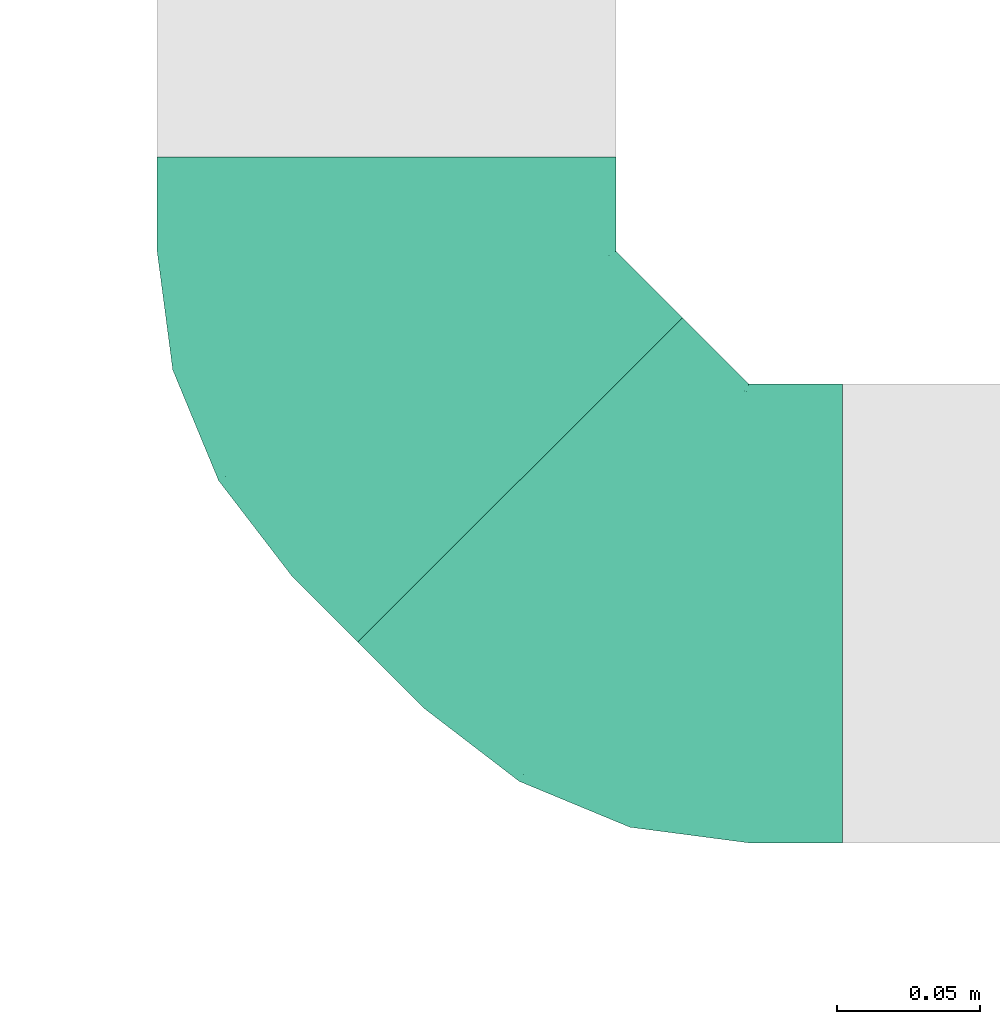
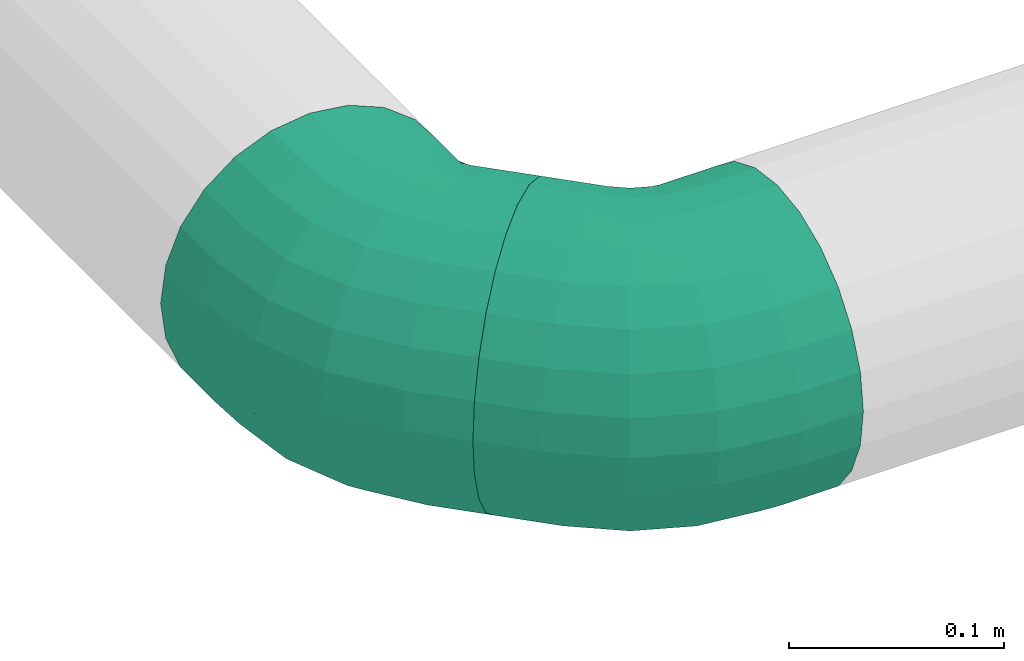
# One storey, part 154 of 374: 2 flow fittings.
"""IFC2X3 building model written with IfcOpenShell, lengths in metres."""

from ifc_helpers import new_model, si_unit, direction, origin, place, context, subcontext, project, spatial, open_shell, surface_model, source, transform, mapped, element, save


model = new_model("IFC2X3")

# Units and contexts
model_context = context("Model", 3, precision=1e-05, world=origin(), true_north=direction((-0.4480736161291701, 0.8939966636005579)))
body_context = subcontext(model_context, "Body", "Model", "MODEL_VIEW")
ifc_project = project(units=[si_unit("LENGTHUNIT", "METRE"), si_unit("AREAUNIT", "SQUARE_METRE"), si_unit("VOLUMEUNIT", "CUBIC_METRE"), si_unit("PLANEANGLEUNIT", "RADIAN"), si_unit("THERMODYNAMICTEMPERATUREUNIT", "KELVIN"), si_unit("MASSUNIT", "GRAM", prefix="KILO"), si_unit("TIMEUNIT", "SECOND")], contexts=[model_context])

# Site, building, storey
site_placement = place(None, origin())
site = spatial("IfcSite", under=ifc_project, at=site_placement, Name="Site 1", CompositionType="ELEMENT")
building_placement = place(site_placement, origin())
building = spatial("IfcBuilding", under=site, at=building_placement, Name="Undefined", CompositionType="ELEMENT")
storey_placement = place(building_placement, origin())
storey = spatial("IfcBuildingStorey", under=building, at=storey_placement, Name="Rez de chauss\x8ee", CompositionType="ELEMENT", Elevation=0.0)

# Flow fittings
shared_shape_1 = source(origin(), body_context, "Body", "SurfaceModel", [
    surface_model("IfcFaceBasedSurfaceModel", [(0.0, 0.020884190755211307, 0.0), (0.0, 0.0, 0.0), (0.03280000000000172, -3.552713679e-15, -4.4408921e-16), (0.03280000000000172, 0.0208841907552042, -8.8817842e-16), (0.0, -0.020172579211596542, -0.005405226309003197), (0.03280000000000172, -0.020172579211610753, -0.005405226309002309), (0.0, -0.03825881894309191, -0.015847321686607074), (0.03280000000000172, -0.038258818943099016, -0.015847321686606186), (0.0, -0.05302617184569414, -0.0306146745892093), (0.03280000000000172, -0.05302617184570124, -0.03061467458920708), (0.0, -0.06346826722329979, -0.04870091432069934), (0.03280000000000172, -0.06346826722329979, -0.04870091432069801), (0.0, -0.06887349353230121, -0.06887349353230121), (0.03280000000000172, -0.06887349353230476, -0.06887349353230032), (0.0, -0.06887349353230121, -0.08975768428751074), (0.03280000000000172, -0.06887349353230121, -0.08975768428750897), (0.0, -0.06346826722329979, -0.10993026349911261), (0.03280000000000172, -0.0634682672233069, -0.10993026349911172), (0.0, -0.05302617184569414, -0.12801650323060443), (0.03280000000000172, -0.05302617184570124, -0.12801650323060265), (0.0, -0.038258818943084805, -0.14278385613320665), (0.03280000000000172, -0.038258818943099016, -0.142783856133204), (0.0, -0.020172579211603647, -0.15322595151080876), (0.03280000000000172, -0.0201725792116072, -0.15322595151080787), (0.0, 7.105427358e-15, -0.15863117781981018), (0.03280000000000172, -7.105427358e-15, -0.15863117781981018), (0.0, 0.020884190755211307, -0.15863117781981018), (0.03280000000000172, 0.0208841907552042, -0.15863117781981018), (0.0, 0.04105676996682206, -0.15322595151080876), (0.03280000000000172, 0.04105676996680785, -0.15322595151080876), (0.0, 0.05914300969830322, -0.1427838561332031), (0.03280000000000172, 0.05914300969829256, -0.142783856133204), (0.0, 0.07391036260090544, -0.12801650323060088), (0.03280000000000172, 0.07391036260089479, -0.12801650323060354), (0.0, 0.0843524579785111, -0.10993026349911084), (0.03280000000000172, 0.08435245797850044, -0.1099302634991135), (0.0, 0.08975768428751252, -0.08975768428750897), (0.03280000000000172, 0.08975768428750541, -0.08975768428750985), (0.0, 0.08975768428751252, -0.06887349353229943), (0.03280000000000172, 0.08975768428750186, -0.0688734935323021), (0.0, 0.0843524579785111, -0.048700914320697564), (0.03280000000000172, 0.08435245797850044, -0.048700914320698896), (0.0, 0.07391036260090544, -0.030614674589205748), (0.03280000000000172, 0.07391036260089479, -0.03061467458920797), (0.0, 0.05914300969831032, -0.015847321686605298), (0.03280000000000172, 0.05914300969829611, -0.015847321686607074), (0.0, 0.04105676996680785, -0.005405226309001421), (0.03280000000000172, 0.04105676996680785, -0.005405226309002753), (0.07350552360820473, -0.06356035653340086, -0.09045717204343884), (0.07421104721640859, -0.06346826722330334, -0.0695851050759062), (0.11143703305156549, -0.04798302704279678, -0.09250796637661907), (0.11280000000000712, -0.04762094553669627, -0.07167144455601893), (0.14400955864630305, -0.023203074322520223, -0.09577030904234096), (0.14593708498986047, -0.02241149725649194, -0.07499033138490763), (0.07143703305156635, -0.058425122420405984, -0.11059420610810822), (0.1074410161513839, -0.043639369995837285, -0.1125407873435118), (0.13835833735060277, -0.020118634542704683, -0.11563735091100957), (0.06814653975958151, -0.04841252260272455, -0.12862390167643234), (0.10108427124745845, -0.034885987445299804, -0.13040470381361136), (0.12936854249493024, -0.013368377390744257, -0.13323755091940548), (0.06385828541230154, -0.03420489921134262, -0.14331756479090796), (0.09279999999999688, -0.02231940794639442, -0.14488231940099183), (0.11765281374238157, -0.0034123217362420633, -0.14737148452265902), (0.05886450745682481, -0.01677047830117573, -0.15367384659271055), (0.08315276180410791, -0.0067960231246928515, -0.15498700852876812), (0.1040095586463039, 0.009071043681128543, -0.15707594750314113), (0.0535055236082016, 0.002702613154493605, -0.15898698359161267), (0.07280000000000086, 0.010626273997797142, -0.16003015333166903), (0.08936854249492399, 0.023230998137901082, -0.16168959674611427), (0.04814653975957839, 0.02288731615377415, -0.15889489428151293), (0.06244723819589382, 0.028760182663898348, -0.15966807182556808), (0.07472752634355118, 0.03810256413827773, -0.16089801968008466), (0.043152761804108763, 0.042408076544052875, -0.1534038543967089), (0.05280000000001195, 0.04636990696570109, -0.15392543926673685), (0.061084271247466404, 0.05267226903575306, -0.15475516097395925), (0.038864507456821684, 0.05993458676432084, -0.1428880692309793), (0.04451572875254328, 0.062255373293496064, -0.143193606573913), (0.04936854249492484, 0.06594721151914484, -0.14367964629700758), (0.035574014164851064, 0.07427244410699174, -0.12806417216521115), (0.03815898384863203, 0.07533401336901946, -0.12820393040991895), (0.04037874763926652, 0.07702272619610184, -0.1284262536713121), (0.03350552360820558, 0.08444454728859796, -0.10994238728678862), (0.03416296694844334, 0.08471453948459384, -0.10997793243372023), (0.03472752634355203, 0.08514403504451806, -0.11003447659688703), (0.03350552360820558, 0.08984977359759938, -0.06888561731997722), (0.03416296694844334, 0.09011976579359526, -0.06892116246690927), (0.03472752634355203, 0.09054926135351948, -0.06897770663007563), (0.035574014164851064, 0.0847145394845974, -0.04874858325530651), (0.03815898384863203, 0.08577610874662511, -0.04888834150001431), (0.04037874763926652, 0.0874648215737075, -0.04911066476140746), (0.038864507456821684, 0.07470193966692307, -0.030718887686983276), (0.04451572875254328, 0.07702272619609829, -0.031024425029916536), (0.04936854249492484, 0.08071456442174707, -0.03151046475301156), (0.043152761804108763, 0.06049431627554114, -0.016025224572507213), (0.05280000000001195, 0.06445614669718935, -0.01654680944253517), (0.061084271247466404, 0.07075850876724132, -0.017376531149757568), (0.04814653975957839, 0.0430598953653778, -0.0056689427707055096), (0.06244723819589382, 0.048932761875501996, -0.006442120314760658), (0.07472752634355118, 0.058275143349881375, -0.007672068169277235), (0.0535055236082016, 0.023586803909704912, -0.0003558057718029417), (0.07280000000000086, 0.03151046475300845, -0.0013989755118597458), (0.08936854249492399, 0.04411518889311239, -0.0030584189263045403), (0.05886450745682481, 0.0034021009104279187, -0.0004478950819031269), (0.08315276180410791, 0.013376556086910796, -0.0017610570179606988), (0.1040095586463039, 0.02924362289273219, -0.00384999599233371), (0.06385828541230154, -0.016118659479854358, -0.0059389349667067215), (0.09279999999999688, -0.004233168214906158, -0.007503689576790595), (0.11765281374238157, 0.0146739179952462, -0.009992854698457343), (0.06814653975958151, -0.033645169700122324, -0.016454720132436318), (0.10108427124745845, -0.020118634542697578, -0.01823552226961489), (0.12936854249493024, 0.0013989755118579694, -0.021068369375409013), (0.07143703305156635, -0.04798302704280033, -0.03127861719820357), (0.1074410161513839, -0.03319727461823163, -0.03322519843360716), (0.13835833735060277, -0.00967653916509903, -0.03632176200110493), (0.07350552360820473, -0.05815513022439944, -0.04940040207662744), (0.11143703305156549, -0.04257780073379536, -0.051451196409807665), (0.14400955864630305, -0.017797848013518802, -0.05471353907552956), (0.16720266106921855, -0.00020839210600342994, -0.09879761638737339), (0.16913018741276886, 0.0005831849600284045, -0.07801763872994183), (0.16155143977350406, 0.0028760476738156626, -0.11866465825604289), (0.15256164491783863, 0.009626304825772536, -0.1362648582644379), (0.14084591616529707, 0.019582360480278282, -0.15039879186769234), (0.1272026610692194, 0.03206572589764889, -0.16010325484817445), (0.11256164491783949, 0.046225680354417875, -0.16471690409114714), (0.09792062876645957, 0.06109724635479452, -0.16392532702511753), (0.0842773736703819, 0.07566695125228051, -0.15778246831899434), (0.07256164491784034, 0.08894189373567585, -0.14670695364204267), (0.06357185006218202, 0.10001740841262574, -0.1314535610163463), (0.057920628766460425, 0.10813871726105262, -0.11306178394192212), (0.05599310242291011, 0.1127523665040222, -0.09278499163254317), (0.057920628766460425, 0.11354394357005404, -0.07200501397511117), (0.06357185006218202, 0.1104595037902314, -0.052137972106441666), (0.07256164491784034, 0.10370924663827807, -0.03453777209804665), (0.0842773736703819, 0.09375319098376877, -0.02040383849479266), (0.09792062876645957, 0.08126982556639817, -0.010699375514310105), (0.11256164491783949, 0.06710987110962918, -0.006085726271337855), (0.1272026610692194, 0.052238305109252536, -0.0068773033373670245), (0.14084591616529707, 0.037668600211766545, -0.013020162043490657), (0.15256164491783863, 0.024393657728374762, -0.024095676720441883), (0.16155143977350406, 0.013318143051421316, -0.039349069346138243), (0.16720266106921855, 0.005196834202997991, -0.05774084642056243)], [open_shell([[[0, 1, 2, 3]], [[1, 4, 5, 2]], [[4, 6, 7, 5]], [[6, 8, 9, 7]], [[8, 10, 11, 9]], [[10, 12, 13, 11]], [[12, 14, 15, 13]], [[14, 16, 17, 15]], [[16, 18, 19, 17]], [[18, 20, 21, 19]], [[20, 22, 23, 21]], [[22, 24, 25, 23]], [[24, 26, 27, 25]], [[26, 28, 29, 27]], [[28, 30, 31, 29]], [[30, 32, 33, 31]], [[32, 34, 35, 33]], [[34, 36, 37, 35]], [[36, 38, 39, 37]], [[38, 40, 41, 39]], [[40, 42, 43, 41]], [[42, 44, 45, 43]], [[44, 46, 47, 45]], [[46, 0, 3, 47]], [[13, 15, 48, 49]], [[49, 48, 50, 51]], [[51, 50, 52, 53]], [[15, 17, 54, 48]], [[48, 54, 55, 50]], [[50, 55, 56, 52]], [[17, 19, 57, 54]], [[54, 57, 58, 55]], [[55, 58, 59, 56]], [[19, 21, 60, 57]], [[57, 60, 61, 58]], [[58, 61, 62, 59]], [[21, 23, 63, 60]], [[60, 63, 64, 61]], [[61, 64, 65, 62]], [[23, 25, 66, 63]], [[63, 66, 67, 64]], [[64, 67, 68, 65]], [[25, 27, 69, 66]], [[66, 69, 70, 67]], [[67, 70, 71, 68]], [[27, 29, 72, 69]], [[69, 72, 73, 70]], [[70, 73, 74, 71]], [[29, 31, 75, 72]], [[72, 75, 76, 73]], [[73, 76, 77, 74]], [[31, 33, 78, 75]], [[75, 78, 79, 76]], [[76, 79, 80, 77]], [[33, 35, 81, 78]], [[78, 81, 82, 79]], [[79, 82, 83, 80]], [[35, 37, 81]], [[81, 37, 82]], [[82, 37, 83]], [[37, 39, 84]], [[37, 84, 85]], [[37, 85, 86]], [[39, 41, 87, 84]], [[84, 87, 88, 85]], [[85, 88, 89, 86]], [[41, 43, 90, 87]], [[87, 90, 91, 88]], [[88, 91, 92, 89]], [[43, 45, 93, 90]], [[90, 93, 94, 91]], [[91, 94, 95, 92]], [[45, 47, 96, 93]], [[93, 96, 97, 94]], [[94, 97, 98, 95]], [[47, 3, 99, 96]], [[96, 99, 100, 97]], [[97, 100, 101, 98]], [[3, 2, 102, 99]], [[99, 102, 103, 100]], [[100, 103, 104, 101]], [[2, 5, 105, 102]], [[102, 105, 106, 103]], [[103, 106, 107, 104]], [[5, 7, 108, 105]], [[105, 108, 109, 106]], [[106, 109, 110, 107]], [[7, 9, 111, 108]], [[108, 111, 112, 109]], [[109, 112, 113, 110]], [[9, 11, 114, 111]], [[111, 114, 115, 112]], [[112, 115, 116, 113]], [[11, 13, 49, 114]], [[114, 49, 51, 115]], [[115, 51, 53, 116]], [[53, 52, 117, 118]], [[52, 56, 119, 117]], [[56, 59, 120, 119]], [[59, 62, 121, 120]], [[62, 65, 122, 121]], [[65, 68, 123, 122]], [[68, 71, 124, 123]], [[71, 74, 125, 124]], [[74, 77, 126, 125]], [[77, 80, 127, 126]], [[80, 83, 128, 127]], [[83, 37, 129, 128]], [[37, 86, 130, 129]], [[86, 89, 131, 130]], [[89, 92, 132, 131]], [[92, 95, 133, 132]], [[95, 98, 134, 133]], [[98, 101, 135, 134]], [[101, 104, 136, 135]], [[104, 107, 137, 136]], [[107, 110, 138, 137]], [[110, 113, 139, 138]], [[113, 116, 140, 139]], [[116, 53, 118, 140]]])]),
])
flow_fitting_1_placement = place(storey_placement, origin())
element("IfcFlowFitting", 1, at=flow_fitting_1_placement, inside=storey, Name="PE-HD coude 45°", ObjectType="PE-HD coude 45°", context=body_context, shape_type="MappedRepresentation", body=[
    mapped(shared_shape_1, transform((31.1778482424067, 25.089351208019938, -0.8708619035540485), x_axis=(-1.0, 0.0, 0.0), y_axis=(0.0, 0.9914448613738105, -0.13052619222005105), z_axis=(9.56658874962e-13, -0.13052619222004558, -0.9914448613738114))),
])
shared_shape_2 = source(origin(), body_context, "Body", "SurfaceModel", [
    surface_model("IfcFaceBasedSurfaceModel", [(0.0, 0.020884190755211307, 0.0), (0.0, 0.0, 0.0), (0.03280000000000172, -3.552713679e-15, -4.4408921e-16), (0.03280000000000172, 0.0208841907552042, -8.8817842e-16), (0.0, -0.020172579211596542, -0.005405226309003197), (0.03280000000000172, -0.020172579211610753, -0.005405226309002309), (0.0, -0.03825881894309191, -0.015847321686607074), (0.03280000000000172, -0.038258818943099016, -0.015847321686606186), (0.0, -0.05302617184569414, -0.0306146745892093), (0.03280000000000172, -0.05302617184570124, -0.03061467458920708), (0.0, -0.06346826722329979, -0.04870091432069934), (0.03280000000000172, -0.06346826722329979, -0.04870091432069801), (0.0, -0.06887349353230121, -0.06887349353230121), (0.03280000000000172, -0.06887349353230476, -0.06887349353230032), (0.0, -0.06887349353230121, -0.08975768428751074), (0.03280000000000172, -0.06887349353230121, -0.08975768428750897), (0.0, -0.06346826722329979, -0.10993026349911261), (0.03280000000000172, -0.0634682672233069, -0.10993026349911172), (0.0, -0.05302617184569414, -0.12801650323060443), (0.03280000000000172, -0.05302617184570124, -0.12801650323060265), (0.0, -0.038258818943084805, -0.14278385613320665), (0.03280000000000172, -0.038258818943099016, -0.142783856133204), (0.0, -0.020172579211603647, -0.15322595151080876), (0.03280000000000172, -0.0201725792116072, -0.15322595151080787), (0.0, 7.105427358e-15, -0.15863117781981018), (0.03280000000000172, -7.105427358e-15, -0.15863117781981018), (0.0, 0.020884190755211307, -0.15863117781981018), (0.03280000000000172, 0.0208841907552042, -0.15863117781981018), (0.0, 0.04105676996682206, -0.15322595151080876), (0.03280000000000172, 0.04105676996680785, -0.15322595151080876), (0.0, 0.05914300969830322, -0.1427838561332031), (0.03280000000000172, 0.05914300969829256, -0.142783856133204), (0.0, 0.07391036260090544, -0.12801650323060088), (0.03280000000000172, 0.07391036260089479, -0.12801650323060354), (0.0, 0.0843524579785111, -0.10993026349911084), (0.03280000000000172, 0.08435245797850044, -0.1099302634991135), (0.0, 0.08975768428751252, -0.08975768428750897), (0.03280000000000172, 0.08975768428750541, -0.08975768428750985), (0.0, 0.08975768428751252, -0.06887349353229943), (0.03280000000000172, 0.08975768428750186, -0.0688734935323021), (0.0, 0.0843524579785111, -0.048700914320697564), (0.03280000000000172, 0.08435245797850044, -0.048700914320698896), (0.0, 0.07391036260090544, -0.030614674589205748), (0.03280000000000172, 0.07391036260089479, -0.03061467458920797), (0.0, 0.05914300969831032, -0.015847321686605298), (0.03280000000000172, 0.05914300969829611, -0.015847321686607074), (0.0, 0.04105676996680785, -0.005405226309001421), (0.03280000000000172, 0.04105676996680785, -0.005405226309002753), (0.07350552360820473, -0.06356035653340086, -0.09045717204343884), (0.07421104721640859, -0.06346826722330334, -0.0695851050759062), (0.11143703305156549, -0.04798302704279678, -0.09250796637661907), (0.11280000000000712, -0.04762094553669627, -0.07167144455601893), (0.14400955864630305, -0.023203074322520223, -0.09577030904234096), (0.14593708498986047, -0.02241149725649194, -0.07499033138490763), (0.07143703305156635, -0.058425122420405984, -0.11059420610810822), (0.1074410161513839, -0.043639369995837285, -0.1125407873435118), (0.13835833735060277, -0.020118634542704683, -0.11563735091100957), (0.06814653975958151, -0.04841252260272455, -0.12862390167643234), (0.10108427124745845, -0.034885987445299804, -0.13040470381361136), (0.12936854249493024, -0.013368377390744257, -0.13323755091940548), (0.06385828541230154, -0.03420489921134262, -0.14331756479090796), (0.09279999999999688, -0.02231940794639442, -0.14488231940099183), (0.11765281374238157, -0.0034123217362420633, -0.14737148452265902), (0.05886450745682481, -0.01677047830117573, -0.15367384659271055), (0.08315276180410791, -0.0067960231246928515, -0.15498700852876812), (0.1040095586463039, 0.009071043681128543, -0.15707594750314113), (0.0535055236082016, 0.002702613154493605, -0.15898698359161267), (0.07280000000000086, 0.010626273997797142, -0.16003015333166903), (0.08936854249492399, 0.023230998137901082, -0.16168959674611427), (0.04814653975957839, 0.02288731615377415, -0.15889489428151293), (0.06244723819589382, 0.028760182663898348, -0.15966807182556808), (0.07472752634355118, 0.03810256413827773, -0.16089801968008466), (0.043152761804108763, 0.042408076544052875, -0.1534038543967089), (0.05280000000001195, 0.04636990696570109, -0.15392543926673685), (0.061084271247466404, 0.05267226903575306, -0.15475516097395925), (0.038864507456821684, 0.05993458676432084, -0.1428880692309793), (0.04451572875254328, 0.062255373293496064, -0.143193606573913), (0.04936854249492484, 0.06594721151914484, -0.14367964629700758), (0.035574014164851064, 0.07427244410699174, -0.12806417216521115), (0.03815898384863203, 0.07533401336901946, -0.12820393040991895), (0.04037874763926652, 0.07702272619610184, -0.1284262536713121), (0.03350552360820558, 0.08444454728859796, -0.10994238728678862), (0.03416296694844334, 0.08471453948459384, -0.10997793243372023), (0.03472752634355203, 0.08514403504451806, -0.11003447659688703), (0.03350552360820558, 0.08984977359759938, -0.06888561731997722), (0.03416296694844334, 0.09011976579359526, -0.06892116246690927), (0.03472752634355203, 0.09054926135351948, -0.06897770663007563), (0.035574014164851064, 0.0847145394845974, -0.04874858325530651), (0.03815898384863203, 0.08577610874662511, -0.04888834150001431), (0.04037874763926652, 0.0874648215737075, -0.04911066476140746), (0.038864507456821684, 0.07470193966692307, -0.030718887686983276), (0.04451572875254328, 0.07702272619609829, -0.031024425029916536), (0.04936854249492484, 0.08071456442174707, -0.03151046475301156), (0.043152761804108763, 0.06049431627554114, -0.016025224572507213), (0.05280000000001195, 0.06445614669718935, -0.01654680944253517), (0.061084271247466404, 0.07075850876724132, -0.017376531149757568), (0.04814653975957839, 0.0430598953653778, -0.0056689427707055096), (0.06244723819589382, 0.048932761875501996, -0.006442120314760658), (0.07472752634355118, 0.058275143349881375, -0.007672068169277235), (0.0535055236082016, 0.023586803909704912, -0.0003558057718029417), (0.07280000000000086, 0.03151046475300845, -0.0013989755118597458), (0.08936854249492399, 0.04411518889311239, -0.0030584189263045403), (0.05886450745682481, 0.0034021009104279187, -0.0004478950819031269), (0.08315276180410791, 0.013376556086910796, -0.0017610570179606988), (0.1040095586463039, 0.02924362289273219, -0.00384999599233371), (0.06385828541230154, -0.016118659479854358, -0.0059389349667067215), (0.09279999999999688, -0.004233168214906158, -0.007503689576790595), (0.11765281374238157, 0.0146739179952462, -0.009992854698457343), (0.06814653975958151, -0.033645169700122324, -0.016454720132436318), (0.10108427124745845, -0.020118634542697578, -0.01823552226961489), (0.12936854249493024, 0.0013989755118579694, -0.021068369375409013), (0.07143703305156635, -0.04798302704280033, -0.03127861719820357), (0.1074410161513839, -0.03319727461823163, -0.03322519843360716), (0.13835833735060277, -0.00967653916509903, -0.03632176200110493), (0.07350552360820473, -0.05815513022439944, -0.04940040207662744), (0.11143703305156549, -0.04257780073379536, -0.051451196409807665), (0.14400955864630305, -0.017797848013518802, -0.05471353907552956), (0.167202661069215, -0.00020839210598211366, -0.09879761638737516), (0.16913018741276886, 0.0005831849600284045, -0.07801763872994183), (0.16155143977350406, 0.0028760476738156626, -0.11866465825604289), (0.15256164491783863, 0.009626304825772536, -0.1362648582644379), (0.14084591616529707, 0.019582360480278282, -0.15039879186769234), (0.1272026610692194, 0.03206572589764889, -0.16010325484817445), (0.11256164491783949, 0.046225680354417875, -0.16471690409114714), (0.09792062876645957, 0.06109724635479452, -0.16392532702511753), (0.0842773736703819, 0.07566695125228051, -0.15778246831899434), (0.07256164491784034, 0.08894189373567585, -0.14670695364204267), (0.06357185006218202, 0.10001740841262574, -0.1314535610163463), (0.057920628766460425, 0.10813871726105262, -0.11306178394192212), (0.05599310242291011, 0.1127523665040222, -0.09278499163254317), (0.057920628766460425, 0.11354394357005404, -0.07200501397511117), (0.06357185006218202, 0.1104595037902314, -0.052137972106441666), (0.07256164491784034, 0.10370924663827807, -0.03453777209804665), (0.0842773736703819, 0.09375319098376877, -0.02040383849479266), (0.09792062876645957, 0.08126982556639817, -0.010699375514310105), (0.11256164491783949, 0.06710987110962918, -0.006085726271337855), (0.1272026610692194, 0.052238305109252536, -0.0068773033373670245), (0.14084591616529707, 0.037668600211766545, -0.013020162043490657), (0.15256164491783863, 0.024393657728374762, -0.024095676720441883), (0.16155143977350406, 0.013318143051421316, -0.039349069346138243), (0.16720266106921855, 0.005196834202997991, -0.05774084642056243)], [open_shell([[[0, 1, 2, 3]], [[1, 4, 5, 2]], [[4, 6, 7, 5]], [[6, 8, 9, 7]], [[8, 10, 11, 9]], [[10, 12, 13, 11]], [[12, 14, 15, 13]], [[14, 16, 17, 15]], [[16, 18, 19, 17]], [[18, 20, 21, 19]], [[20, 22, 23, 21]], [[22, 24, 25, 23]], [[24, 26, 27, 25]], [[26, 28, 29, 27]], [[28, 30, 31, 29]], [[30, 32, 33, 31]], [[32, 34, 35, 33]], [[34, 36, 37, 35]], [[36, 38, 39, 37]], [[38, 40, 41, 39]], [[40, 42, 43, 41]], [[42, 44, 45, 43]], [[44, 46, 47, 45]], [[46, 0, 3, 47]], [[13, 15, 48, 49]], [[49, 48, 50, 51]], [[51, 50, 52, 53]], [[15, 17, 54, 48]], [[48, 54, 55, 50]], [[50, 55, 56, 52]], [[17, 19, 57, 54]], [[54, 57, 58, 55]], [[55, 58, 59, 56]], [[19, 21, 60, 57]], [[57, 60, 61, 58]], [[58, 61, 62, 59]], [[21, 23, 63, 60]], [[60, 63, 64, 61]], [[61, 64, 65, 62]], [[23, 25, 66, 63]], [[63, 66, 67, 64]], [[64, 67, 68, 65]], [[25, 27, 69, 66]], [[66, 69, 70, 67]], [[67, 70, 71, 68]], [[27, 29, 72, 69]], [[69, 72, 73, 70]], [[70, 73, 74, 71]], [[29, 31, 75, 72]], [[72, 75, 76, 73]], [[73, 76, 77, 74]], [[31, 33, 78, 75]], [[75, 78, 79, 76]], [[76, 79, 80, 77]], [[33, 35, 81, 78]], [[78, 81, 82, 79]], [[79, 82, 83, 80]], [[35, 37, 81]], [[81, 37, 82]], [[82, 37, 83]], [[37, 39, 84]], [[37, 84, 85]], [[37, 85, 86]], [[39, 41, 87, 84]], [[84, 87, 88, 85]], [[85, 88, 89, 86]], [[41, 43, 90, 87]], [[87, 90, 91, 88]], [[88, 91, 92, 89]], [[43, 45, 93, 90]], [[90, 93, 94, 91]], [[91, 94, 95, 92]], [[45, 47, 96, 93]], [[93, 96, 97, 94]], [[94, 97, 98, 95]], [[47, 3, 99, 96]], [[96, 99, 100, 97]], [[97, 100, 101, 98]], [[3, 2, 102, 99]], [[99, 102, 103, 100]], [[100, 103, 104, 101]], [[2, 5, 105, 102]], [[102, 105, 106, 103]], [[103, 106, 107, 104]], [[5, 7, 108, 105]], [[105, 108, 109, 106]], [[106, 109, 110, 107]], [[7, 9, 111, 108]], [[108, 111, 112, 109]], [[109, 112, 113, 110]], [[9, 11, 114, 111]], [[111, 114, 115, 112]], [[112, 115, 116, 113]], [[11, 13, 49, 114]], [[114, 49, 51, 115]], [[115, 51, 53, 116]], [[53, 52, 117, 118]], [[52, 56, 119, 117]], [[56, 59, 120, 119]], [[59, 62, 121, 120]], [[62, 65, 122, 121]], [[65, 68, 123, 122]], [[68, 71, 124, 123]], [[71, 74, 125, 124]], [[74, 77, 126, 125]], [[77, 80, 127, 126]], [[80, 83, 128, 127]], [[83, 37, 129, 128]], [[37, 86, 130, 129]], [[86, 89, 131, 130]], [[89, 92, 132, 131]], [[92, 95, 133, 132]], [[95, 98, 134, 133]], [[98, 101, 135, 134]], [[101, 104, 136, 135]], [[104, 107, 137, 136]], [[107, 110, 138, 137]], [[110, 113, 139, 138]], [[113, 116, 140, 139]], [[116, 53, 118, 140]]])]),
])
flow_fitting_2_placement = place(storey_placement, origin())
element("IfcFlowFitting", 2, at=flow_fitting_2_placement, inside=storey, Name="PE-HD coude 45°", ObjectType="PE-HD coude 45°", context=body_context, shape_type="MappedRepresentation", body=[
    mapped(shared_shape_2, transform((31.05070888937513, 25.142014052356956, -0.8708619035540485), x_axis=(-0.7071067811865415, 0.7071067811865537, 0.0), y_axis=(0.7010573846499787, 0.7010573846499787, -0.13052619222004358), z_axis=(-0.09229595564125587, -0.09229595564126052, -0.9914448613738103))),
])

save(model, "model.ifc")
